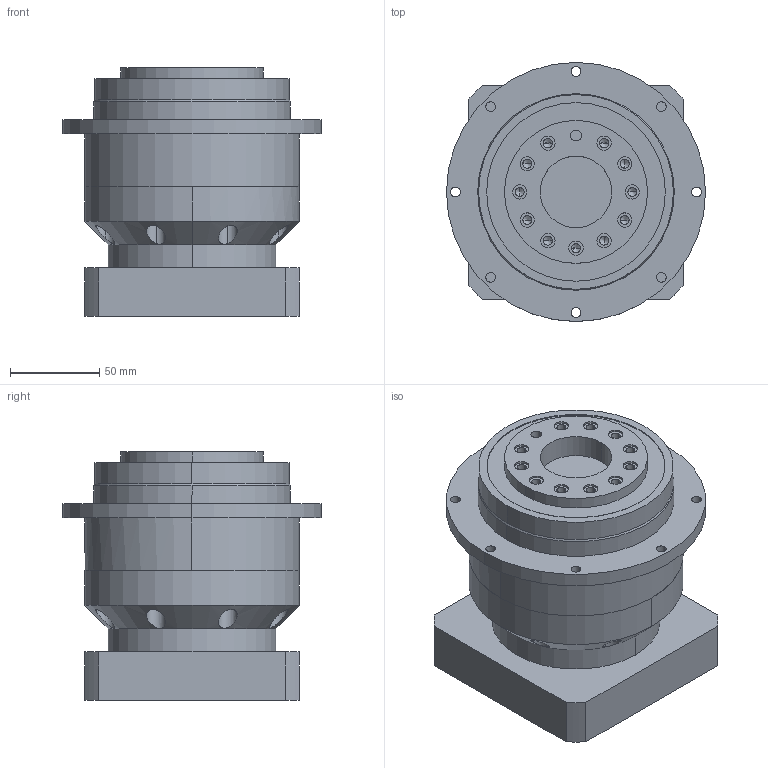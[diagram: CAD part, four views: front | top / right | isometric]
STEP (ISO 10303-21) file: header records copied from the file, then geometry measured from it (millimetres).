
FILE_DESCRIPTION (( 'STEP AP203' ), '1' );
FILE_NAME ('PLX120-L1-19-95-130.STEP', '2022-07-05T08:22:25', ( 'Windows User' ), ( 'P R C' ), 'SwSTEP 2.0', 'SolidWorks 2016', '' );
FILE_SCHEMA (( 'CONFIG_CONTROL_DESIGN' ));
Length unit declared in the file: millimetre
Products named in the file (6): PLX120-L1-19-95-130; PLX120 内齿圈_一级内齿圈; PLX120狟屳啣-19; PLX120 窣諉啣-95-m8-130; 囀鞠褒蹟佪-M8x25; 粣創-6009 45x75x16
Assembly tree (5 placements, depth 2):
  PLX120-L1-19-95-130
    PLX120 内齿圈_一级内齿圈
    PLX120狟屳啣-19
    PLX120 窣諉啣-95-m8-130
    囀鞠褒蹟佪-M8x25
    粣創-6009 45x75x16
Bounding box: 145 x 145 x 139 mm (x, y, z)
Volume: 1349301.7 mm3; surface area: 199520.3 mm2
Topology: 5 solids, 6 shells, 1132 faces, 3078 edges, 2017 vertices
Faces by surface type: plane 572, cylinder 239, bspline 154, sphere 83, torus 48, cone 36
Entity records: 46807 total; most frequent: CARTESIAN_POINT 18872, ORIENTED_EDGE 6018, DIRECTION 5124, EDGE_CURVE 3009, VERTEX_POINT 1991, AXIS2_PLACEMENT_3D 1813, VECTOR 1498, LINE 1498
